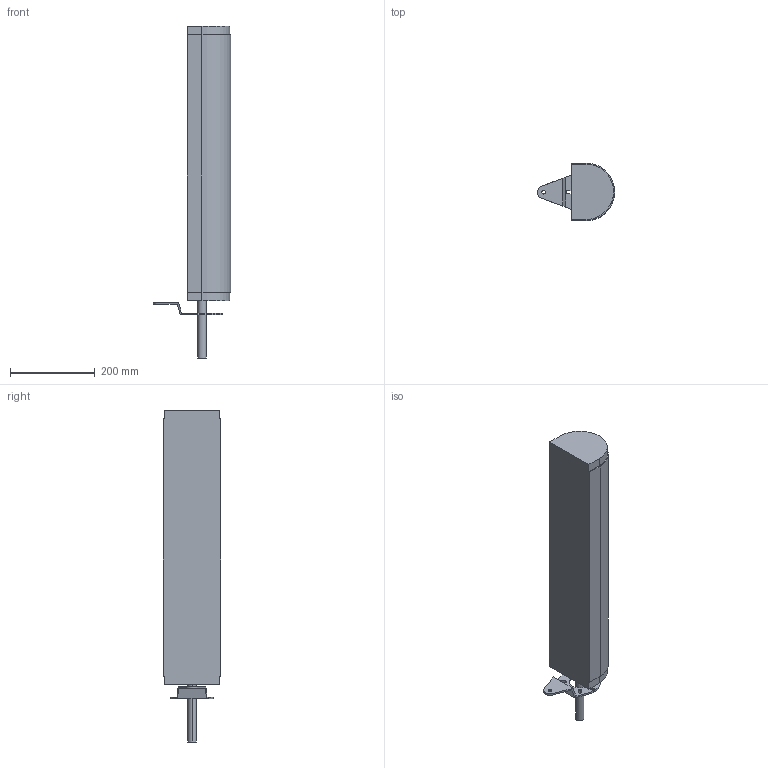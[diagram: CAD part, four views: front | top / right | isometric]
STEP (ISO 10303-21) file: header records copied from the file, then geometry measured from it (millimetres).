
FILE_DESCRIPTION (( 'STEP AP214' ), '1' );
FILE_NAME ('FS-MTC-150 650 links ra.STEP', '2017-12-21T09:29:26', ( '' ), ( '' ), 'SwSTEP 2.0', 'SolidWorks 2017', '' );
FILE_SCHEMA (( 'AUTOMOTIVE_DESIGN' ));
Length unit declared in the file: millimetre
Products named in the file (1): FS-MTC-150 650 links ra
Bounding box: 183 x 136 x 785.5 mm (x, y, z)
Volume: 7873928.4 mm3; surface area: 328215.8 mm2
Topology: 2 solids, 2 shells, 70 faces, 195 edges, 130 vertices
Faces by surface type: plane 36, cylinder 34
Entity records: 2350 total; most frequent: DIRECTION 405, CARTESIAN_POINT 396, ORIENTED_EDGE 390, EDGE_CURVE 195, AXIS2_PLACEMENT_3D 139, VERTEX_POINT 130, VECTOR 127, LINE 127
